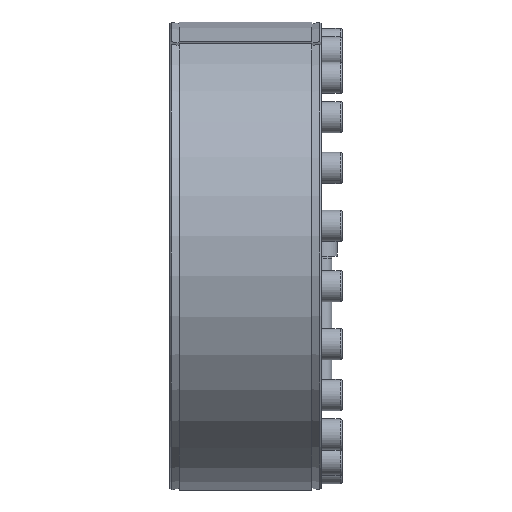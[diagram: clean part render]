
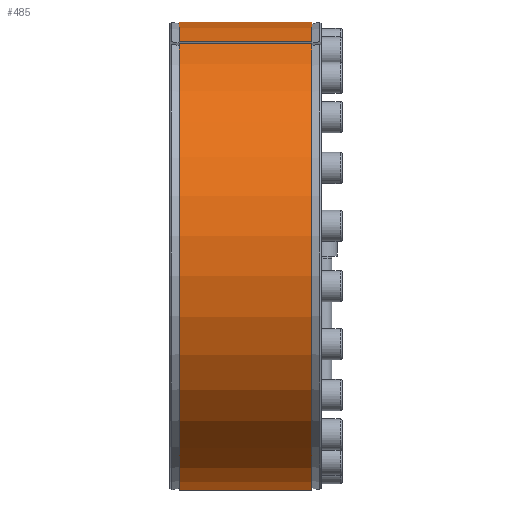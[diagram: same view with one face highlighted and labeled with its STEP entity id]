
A CAD part, left-side view. The second image highlights one B-rep face of the part: STEP entity #485.
In plain terms, the highlighted cylindrical face has radius 247.5 mm (diameter 495 mm), a partial arc.
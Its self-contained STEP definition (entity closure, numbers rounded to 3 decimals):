
#485 = ADVANCED_FACE( '', ( #906 ), #907, .T. );
#906 = FACE_OUTER_BOUND( '', #1348, .T. );
#907 = CYLINDRICAL_SURFACE( '', #1349, 247.5 );
#1348 = EDGE_LOOP( '', ( #1955, #1956, #1957, #1958 ) );
#1349 = AXIS2_PLACEMENT_3D( '', #1959, #1960, #1961 );
#1955 = ORIENTED_EDGE( '', *, *, #2542, .T. );
#1956 = ORIENTED_EDGE( '', *, *, #2499, .T. );
#1957 = ORIENTED_EDGE( '', *, *, #2572, .F. );
#1958 = ORIENTED_EDGE( '', *, *, #2682, .T. );
#1959 = CARTESIAN_POINT( '', ( 0., -60., 0. ) );
#1960 = DIRECTION( '', ( 0., 1., 0. ) );
#1961 = DIRECTION( '', ( 0., 0., -1. ) );
#2499 = EDGE_CURVE( '', #2786, #2784, #2787, .T. );
#2542 = EDGE_CURVE( '', #2866, #2786, #2867, .T. );
#2572 = EDGE_CURVE( '', #2922, #2784, #2923, .T. );
#2682 = EDGE_CURVE( '', #2922, #2866, #3129, .F. );
#2784 = VERTEX_POINT( '', #3205 );
#2786 = VERTEX_POINT( '', #3208 );
#2787 = LINE( '', #3209, #3210 );
#2866 = VERTEX_POINT( '', #3314 );
#2867 = CIRCLE( '', #3315, 247.5 );
#2922 = VERTEX_POINT( '', #3378 );
#2923 = CIRCLE( '', #3379, 247.5 );
#3129 = LINE( '', #3608, #3609 );
#3205 = CARTESIAN_POINT( '', ( -100.079, 10., 226.364 ) );
#3208 = CARTESIAN_POINT( '', ( -100.079, 150., 226.364 ) );
#3209 = CARTESIAN_POINT( '', ( -100.079, -60., 226.364 ) );
#3210 = VECTOR( '', #3624, 1000. );
#3314 = CARTESIAN_POINT( '', ( -105.537, 150., 223.871 ) );
#3315 = AXIS2_PLACEMENT_3D( '', #3722, #3723, #3724 );
#3378 = CARTESIAN_POINT( '', ( -105.537, 10., 223.871 ) );
#3379 = AXIS2_PLACEMENT_3D( '', #3802, #3803, #3804 );
#3608 = CARTESIAN_POINT( '', ( -105.537, -60., 223.871 ) );
#3609 = VECTOR( '', #4101, 1000. );
#3624 = DIRECTION( '', ( 0., -1., 0. ) );
#3722 = CARTESIAN_POINT( '', ( 0., 150., 0. ) );
#3723 = DIRECTION( '', ( 0., -1., 0. ) );
#3724 = DIRECTION( '', ( 0., 0., -1. ) );
#3802 = CARTESIAN_POINT( '', ( 0., 10., 0. ) );
#3803 = DIRECTION( '', ( 0., -1., 0. ) );
#3804 = DIRECTION( '', ( 0., 0., -1. ) );
#4101 = DIRECTION( '', ( 0., -1., 0. ) );
